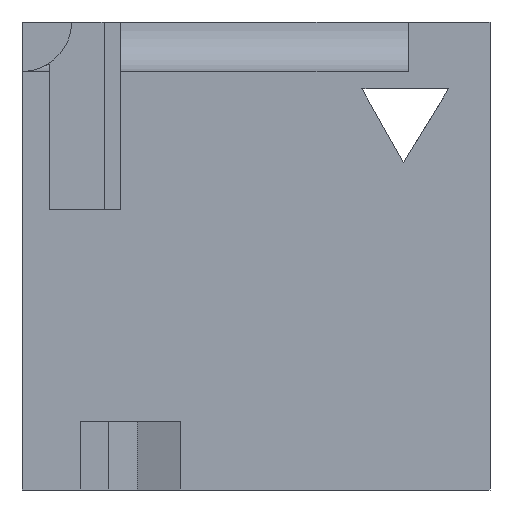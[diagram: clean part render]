
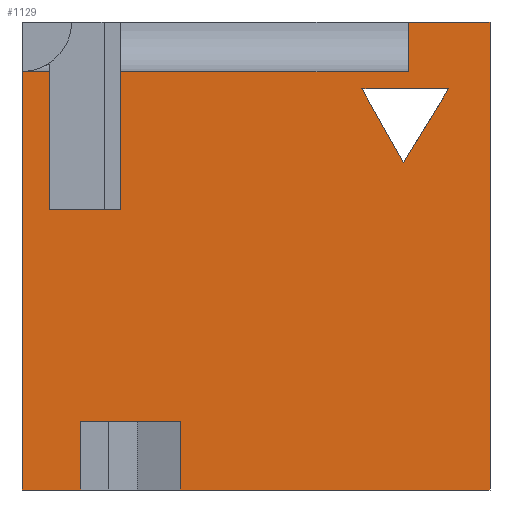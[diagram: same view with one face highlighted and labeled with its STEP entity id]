
A CAD part, front view. The second image highlights one B-rep face of the part: STEP entity #1129.
In plain terms, the highlighted planar face has unit normal (0, -1, 0).
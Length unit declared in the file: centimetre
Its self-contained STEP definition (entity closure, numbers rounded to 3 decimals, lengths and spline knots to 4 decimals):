
#30 = CARTESIAN_POINT ( 'NONE',  ( 125.7048, 0., 147.3261 ) ) ;
#38 = CARTESIAN_POINT ( 'NONE',  ( 338.0177, 0., 147.3261 ) ) ;
#42 = DIRECTION ( 'NONE',  ( 1., 0., 0. ) ) ;
#51 = CARTESIAN_POINT ( 'NONE',  ( 825.0803, 0., 1000. ) ) ;
#54 = CARTESIAN_POINT ( 'NONE',  ( 825.0803, 0., 894.0815 ) ) ;
#62 = VERTEX_POINT ( 'NONE', #1051 ) ;
#64 = CARTESIAN_POINT ( 'NONE',  ( 58.3917, 0., 598.3428 ) ) ;
#66 = CARTESIAN_POINT ( 'NONE',  ( 4.5355, 0., 894.0815 ) ) ;
#71 = DIRECTION ( 'NONE',  ( 0., 0., 1. ) ) ;
#80 = VECTOR ( 'NONE', #1143, 100. ) ;
#92 = VERTEX_POINT ( 'NONE', #855 ) ;
#97 = CARTESIAN_POINT ( 'NONE',  ( 814.9784, 0., 699.1022 ) ) ;
#111 = CARTESIAN_POINT ( 'NONE',  ( 125.7048, 0., 0. ) ) ;
#112 = EDGE_CURVE ( 'NONE', #1020, #1286, #1077, .T. ) ;
#114 = CARTESIAN_POINT ( 'NONE',  ( 0., 0., 1000. ) ) ;
#134 = CARTESIAN_POINT ( 'NONE',  ( 0., 0., 1000. ) ) ;
#136 = CARTESIAN_POINT ( 'NONE',  ( 125.7048, 0., 147.3261 ) ) ;
#145 = EDGE_CURVE ( 'NONE', #778, #1323, #930, .T. ) ;
#154 = DIRECTION ( 'NONE',  ( -1., 0., 0. ) ) ;
#156 = LINE ( 'NONE', #488, #342 ) ;
#159 = ORIENTED_EDGE ( 'NONE', *, *, #542, .T. ) ;
#165 = CARTESIAN_POINT ( 'NONE',  ( 58.3917, 0., 598.3428 ) ) ;
#192 = VERTEX_POINT ( 'NONE', #30 ) ;
#201 = EDGE_LOOP ( 'NONE', ( #1414, #758, #621 ) ) ;
#218 = EDGE_CURVE ( 'NONE', #1221, #1330, #691, .T. ) ;
#225 = LINE ( 'NONE', #111, #426 ) ;
#230 = ORIENTED_EDGE ( 'NONE', *, *, #497, .T. ) ;
#254 = LINE ( 'NONE', #54, #1212 ) ;
#265 = CARTESIAN_POINT ( 'NONE',  ( 210.9115, 0., 598.3428 ) ) ;
#268 = LINE ( 'NONE', #815, #424 ) ;
#274 = EDGE_LOOP ( 'NONE', ( #520, #835, #230, #159, #411, #525, #356, #372, #1122, #1080, #863, #1180, #480, #1400, #1321 ) ) ;
#289 = DIRECTION ( 'NONE',  ( -1., 0., 0. ) ) ;
#295 = CARTESIAN_POINT ( 'NONE',  ( 726.4436, 0., 857.0619 ) ) ;
#302 = EDGE_CURVE ( 'NONE', #676, #977, #399, .T. ) ;
#305 = CARTESIAN_POINT ( 'NONE',  ( 825.0803, 0., 1000. ) ) ;
#316 = EDGE_CURVE ( 'NONE', #778, #1086, #514, .T. ) ;
#318 = VECTOR ( 'NONE', #933, 100. ) ;
#328 = CARTESIAN_POINT ( 'NONE',  ( 0., 0., 1000. ) ) ;
#342 = VECTOR ( 'NONE', #506, 100. ) ;
#345 = VERTEX_POINT ( 'NONE', #295 ) ;
#356 = ORIENTED_EDGE ( 'NONE', *, *, #316, .F. ) ;
#370 = LINE ( 'NONE', #265, #381 ) ;
#372 = ORIENTED_EDGE ( 'NONE', *, *, #145, .T. ) ;
#381 = VECTOR ( 'NONE', #1133, 100. ) ;
#399 = LINE ( 'NONE', #595, #318 ) ;
#401 = CARTESIAN_POINT ( 'NONE',  ( 0., 0., 0. ) ) ;
#403 = VECTOR ( 'NONE', #42, 100. ) ;
#411 = ORIENTED_EDGE ( 'NONE', *, *, #1365, .F. ) ;
#420 = CARTESIAN_POINT ( 'NONE',  ( 210.9115, 0., 598.3428 ) ) ;
#424 = VECTOR ( 'NONE', #1019, 100. ) ;
#426 = VECTOR ( 'NONE', #548, 100. ) ;
#452 = DIRECTION ( 'NONE',  ( 1., 0., 0. ) ) ;
#477 = CARTESIAN_POINT ( 'NONE',  ( 1000., 0., 1000. ) ) ;
#480 = ORIENTED_EDGE ( 'NONE', *, *, #1088, .F. ) ;
#488 = CARTESIAN_POINT ( 'NONE',  ( 0., 0., 1000. ) ) ;
#493 = DIRECTION ( 'NONE',  ( 0., 0., 1. ) ) ;
#497 = EDGE_CURVE ( 'NONE', #62, #976, #156, .T. ) ;
#506 = DIRECTION ( 'NONE',  ( 0., 0., -1. ) ) ;
#514 = LINE ( 'NONE', #1039, #1128 ) ;
#520 = ORIENTED_EDGE ( 'NONE', *, *, #611, .T. ) ;
#525 = ORIENTED_EDGE ( 'NONE', *, *, #600, .F. ) ;
#526 = VECTOR ( 'NONE', #1285, 100. ) ;
#535 = DIRECTION ( 'NONE',  ( 0., 0., -1. ) ) ;
#542 = EDGE_CURVE ( 'NONE', #976, #1259, #1248, .T. ) ;
#547 = VERTEX_POINT ( 'NONE', #66 ) ;
#548 = DIRECTION ( 'NONE',  ( 0., 0., -1. ) ) ;
#568 = EDGE_CURVE ( 'NONE', #345, #676, #710, .T. ) ;
#591 = LINE ( 'NONE', #477, #80 ) ;
#595 = CARTESIAN_POINT ( 'NONE',  ( 814.9784, 0., 699.1022 ) ) ;
#597 = LINE ( 'NONE', #51, #1254 ) ;
#600 = EDGE_CURVE ( 'NONE', #1086, #192, #1379, .T. ) ;
#611 = EDGE_CURVE ( 'NONE', #857, #547, #254, .T. ) ;
#613 = EDGE_CURVE ( 'NONE', #977, #345, #268, .T. ) ;
#617 = VECTOR ( 'NONE', #1171, 100. ) ;
#619 = LINE ( 'NONE', #64, #1348 ) ;
#621 = ORIENTED_EDGE ( 'NONE', *, *, #613, .T. ) ;
#635 = AXIS2_PLACEMENT_3D ( 'NONE', #134, #902, #699 ) ;
#676 = VERTEX_POINT ( 'NONE', #1139 ) ;
#691 = LINE ( 'NONE', #912, #1262 ) ;
#693 = CARTESIAN_POINT ( 'NONE',  ( 825.0803, 0., 894.0815 ) ) ;
#699 = DIRECTION ( 'NONE',  ( 0., 0., 1. ) ) ;
#710 = LINE ( 'NONE', #1029, #403 ) ;
#712 = CARTESIAN_POINT ( 'NONE',  ( 125.7048, 0., 0. ) ) ;
#729 = CARTESIAN_POINT ( 'NONE',  ( 0., 0., 0. ) ) ;
#750 = AXIS2_PLACEMENT_3D ( 'NONE', #328, #1211, #535 ) ;
#758 = ORIENTED_EDGE ( 'NONE', *, *, #302, .T. ) ;
#778 = VERTEX_POINT ( 'NONE', #1278 ) ;
#806 = FACE_OUTER_BOUND ( 'NONE', #274, .T. ) ;
#810 = VECTOR ( 'NONE', #923, 100. ) ;
#815 = CARTESIAN_POINT ( 'NONE',  ( 726.4436, 0., 857.0619 ) ) ;
#818 = VERTEX_POINT ( 'NONE', #305 ) ;
#834 = EDGE_CURVE ( 'NONE', #1221, #857, #619, .T. ) ;
#835 = ORIENTED_EDGE ( 'NONE', *, *, #1347, .F. ) ;
#855 = CARTESIAN_POINT ( 'NONE',  ( 1000., 0., 1000. ) ) ;
#857 = VERTEX_POINT ( 'NONE', #960 ) ;
#863 = ORIENTED_EDGE ( 'NONE', *, *, #1103, .F. ) ;
#874 = CARTESIAN_POINT ( 'NONE',  ( 1000., 0., 0. ) ) ;
#902 = DIRECTION ( 'NONE',  ( 0., 1., 0. ) ) ;
#910 = EDGE_CURVE ( 'NONE', #818, #92, #1214, .T. ) ;
#912 = CARTESIAN_POINT ( 'NONE',  ( 58.3917, 0., 598.3428 ) ) ;
#923 = DIRECTION ( 'NONE',  ( -1., 0., 0. ) ) ;
#930 = LINE ( 'NONE', #401, #526 ) ;
#933 = DIRECTION ( 'NONE',  ( -0.521, 0., -0.853 ) ) ;
#960 = CARTESIAN_POINT ( 'NONE',  ( 58.3917, 0., 894.0815 ) ) ;
#976 = VERTEX_POINT ( 'NONE', #1117 ) ;
#977 = VERTEX_POINT ( 'NONE', #97 ) ;
#1014 = EDGE_CURVE ( 'NONE', #92, #1323, #591, .T. ) ;
#1019 = DIRECTION ( 'NONE',  ( -0.489, 0., 0.872 ) ) ;
#1020 = VERTEX_POINT ( 'NONE', #693 ) ;
#1029 = CARTESIAN_POINT ( 'NONE',  ( 911.503, 0., 857.0619 ) ) ;
#1039 = CARTESIAN_POINT ( 'NONE',  ( 338.0177, 0., 0. ) ) ;
#1051 = CARTESIAN_POINT ( 'NONE',  ( 0., 0., 893.9844 ) ) ;
#1077 = LINE ( 'NONE', #1299, #1427 ) ;
#1080 = ORIENTED_EDGE ( 'NONE', *, *, #910, .F. ) ;
#1086 = VERTEX_POINT ( 'NONE', #38 ) ;
#1088 = EDGE_CURVE ( 'NONE', #1330, #1286, #370, .T. ) ;
#1103 = EDGE_CURVE ( 'NONE', #1020, #818, #597, .T. ) ;
#1117 = CARTESIAN_POINT ( 'NONE',  ( 0., 0., 0. ) ) ;
#1122 = ORIENTED_EDGE ( 'NONE', *, *, #1014, .F. ) ;
#1128 = VECTOR ( 'NONE', #1264, 100. ) ;
#1129 = ADVANCED_FACE ( 'NONE', ( #1345, #806 ), #1251, .F. ) ;
#1133 = DIRECTION ( 'NONE',  ( 0., 0., 1. ) ) ;
#1139 = CARTESIAN_POINT ( 'NONE',  ( 911.503, 0., 857.0619 ) ) ;
#1143 = DIRECTION ( 'NONE',  ( 0., 0., -1. ) ) ;
#1171 = DIRECTION ( 'NONE',  ( 1., 0., 0. ) ) ;
#1180 = ORIENTED_EDGE ( 'NONE', *, *, #112, .T. ) ;
#1211 = DIRECTION ( 'NONE',  ( 0., -1., 0. ) ) ;
#1212 = VECTOR ( 'NONE', #154, 100. ) ;
#1214 = LINE ( 'NONE', #114, #1395 ) ;
#1221 = VERTEX_POINT ( 'NONE', #165 ) ;
#1248 = LINE ( 'NONE', #729, #617 ) ;
#1249 = DIRECTION ( 'NONE',  ( 1., 0., 0. ) ) ;
#1251 = PLANE ( 'NONE',  #635 ) ;
#1254 = VECTOR ( 'NONE', #493, 100. ) ;
#1259 = VERTEX_POINT ( 'NONE', #712 ) ;
#1262 = VECTOR ( 'NONE', #1249, 100. ) ;
#1264 = DIRECTION ( 'NONE',  ( 0., 0., 1. ) ) ;
#1275 = CARTESIAN_POINT ( 'NONE',  ( 210.9115, 0., 894.0815 ) ) ;
#1278 = CARTESIAN_POINT ( 'NONE',  ( 338.0177, 0., 0. ) ) ;
#1285 = DIRECTION ( 'NONE',  ( 1., 0., 0. ) ) ;
#1286 = VERTEX_POINT ( 'NONE', #1275 ) ;
#1299 = CARTESIAN_POINT ( 'NONE',  ( 825.0803, 0., 894.0815 ) ) ;
#1321 = ORIENTED_EDGE ( 'NONE', *, *, #834, .T. ) ;
#1323 = VERTEX_POINT ( 'NONE', #874 ) ;
#1330 = VERTEX_POINT ( 'NONE', #420 ) ;
#1345 = FACE_BOUND ( 'NONE', #201, .T. ) ;
#1347 = EDGE_CURVE ( 'NONE', #62, #547, #1371, .T. ) ;
#1348 = VECTOR ( 'NONE', #71, 100. ) ;
#1365 = EDGE_CURVE ( 'NONE', #192, #1259, #225, .T. ) ;
#1371 = CIRCLE ( 'NONE', #750, 106.0156 ) ;
#1379 = LINE ( 'NONE', #136, #810 ) ;
#1395 = VECTOR ( 'NONE', #452, 100. ) ;
#1400 = ORIENTED_EDGE ( 'NONE', *, *, #218, .F. ) ;
#1414 = ORIENTED_EDGE ( 'NONE', *, *, #568, .T. ) ;
#1427 = VECTOR ( 'NONE', #289, 100. ) ;
